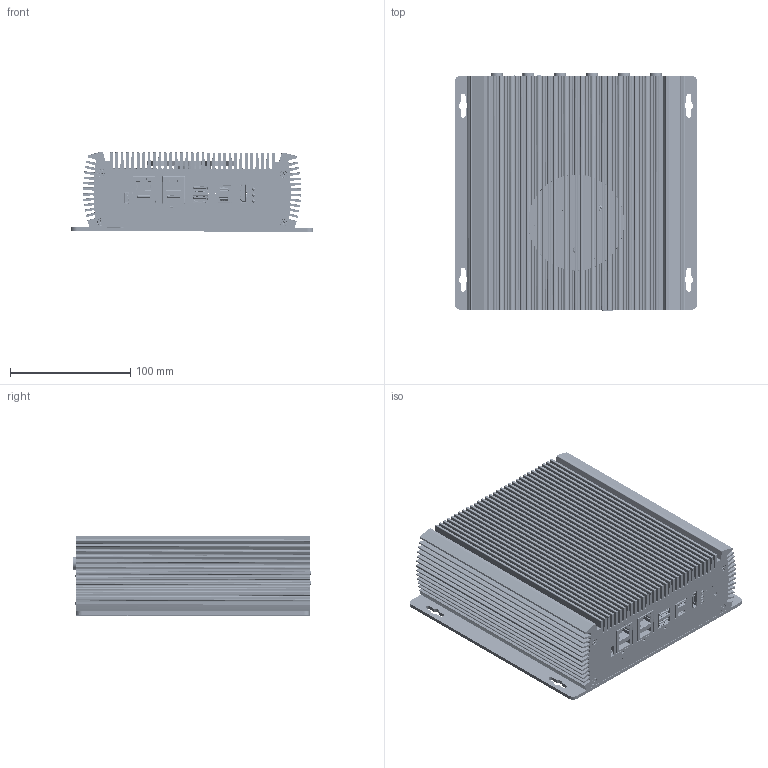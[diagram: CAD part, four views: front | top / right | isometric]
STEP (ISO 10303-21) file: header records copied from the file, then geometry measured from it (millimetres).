
FILE_DESCRIPTION((''),'2;1');
FILE_NAME('00_ASM','2026-04-02T10:31:21',('Lenovo'),(''),'CREO PARAMETRIC BY PTC INC, 2022073','CREO PARAMETRIC BY PTC INC, 2022073','');
FILE_SCHEMA(('AUTOMOTIVE_DESIGN { 1 0 10303 214 1 1 1 1 }'));
Products named in the file (229): 00; GB_T900_1_M3-12-5; GB_T900_1_M3-25-5; 000; C900; GB_T818_M3X6; 367-0035-000_STP_580-12888-0000; 367-0034-000_STP_350-82888-0001; 350-82888-0001-000_ASM_STP_580-_ASM; ORIN00_ASM; BOARD; R1206; R0402; C0402; ACW4532B-2-510TF; NUP2105L; KLXES15AAA1; BTC-641-BN01; AT24C02D-MAHM-T; SI7149ADP-T1-GE3; AONR21321; 74LVC1G32SE-7; 74AUP1G08SE-7; 74LV1T08GWH; 74LVC1G17GW; TPS3840DL20DBVR; NCA1051N-DSPR; SDCW2012U-2-900TF; SDCW2012H-2-900TF; BDFN10A054U; XAL1580-102MEB; 7443551130; W25X10CLSNIG; NAE12S20-C; LT8390EFE; NAM12S06-D; ASM1806; PXTD010M227E040STU; BDFN2C051U2; BSD3C051L2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
Assembly tree (1628 placements, depth 7):
  00_ASM
    00
    GB_T900_1_M3-12-5  x3
    GB_T900_1_M3-25-5  x4
    000
    C900
    GB_T818_M3X6  x14
    ORIN00_ASM
      367-0035-000_STP_580-12888-0000
      350-82888-0001-000_ASM_STP_580-_ASM
        367-0034-000_STP_350-82888-0001
    0004_ASM
      Y-C28-V1-0_0811A1_ASM
        Y-C28-V1-0_0811A1_1_ASM
          BOARD
          COMPONENTS_ASM
            R1206  x8
            R0402  x607
            C0402  x331
            ACW4532B-2-510TF  x4
            NUP2105L  x4
            KLXES15AAA1  x70
            BTC-641-BN01
            AT24C02D-MAHM-T
            SI7149ADP-T1-GE3
            AONR21321
            74LVC1G32SE-7
            74AUP1G08SE-7
            74LV1T08GWH
            74LVC1G17GW
            TPS3840DL20DBVR
            NCA1051N-DSPR  x4
            SDCW2012U-2-900TF  x11
            SDCW2012H-2-900TF  x4
            BDFN10A054U  x3
            XAL1580-102MEB
            7443551130
            W25X10CLSNIG
            NAE12S20-C  x2
            LT8390EFE
            NAM12S06-D
            ASM1806
            PXTD010M227E040STU  x2
            BDFN2C051U2  x26
            BSD3C051L2  x8
            BDFN2C051V40
            LBZT52C3V3T1G
            SMBJ12CA
            RB521S30T1G
            HDR200M-1X4
            NTS4001NT1G  x8
            PMV32UP  x2
            MMBT3904LT1
            FDV301N
            R0805  x16
            HD3SS3220IRNHR  x2
            SGM2576YN5G  x5
            NCP380HSNAJAAT1G  x2
            EFM8SB10F2G-A-QFN20
            SN74LVC1G07DBVR
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Bounding box: 202.01 x 197.48 x 66.54 mm (x, y, z)
Volume: 837721.6 mm3; surface area: 689006.1 mm2
Topology: 1622 solids, 1635 shells, 43522 faces, 115137 edges, 75508 vertices
Faces by surface type: plane 33469, cylinder 7279, extrusion 1733, cone 295, torus 285, bspline 261, sphere 200
Entity records: 1098038 total; most frequent: CARTESIAN_POINT 206757, ORIENTED_EDGE 164982, DIRECTION 153787, EDGE_CURVE 82491, VECTOR 66295, LINE 64669, VERTEX_POINT 54236, AXIS2_PLACEMENT_3D 43746
